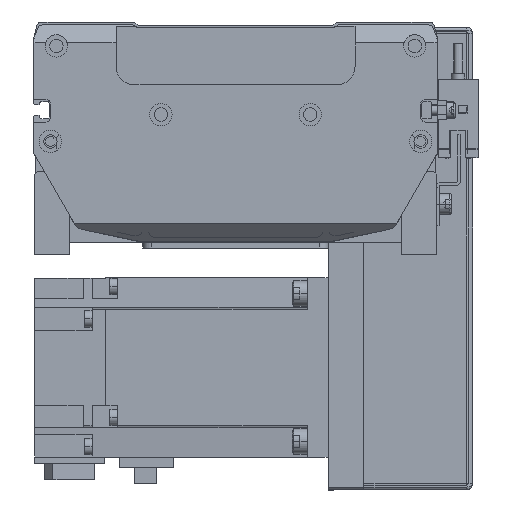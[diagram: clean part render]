
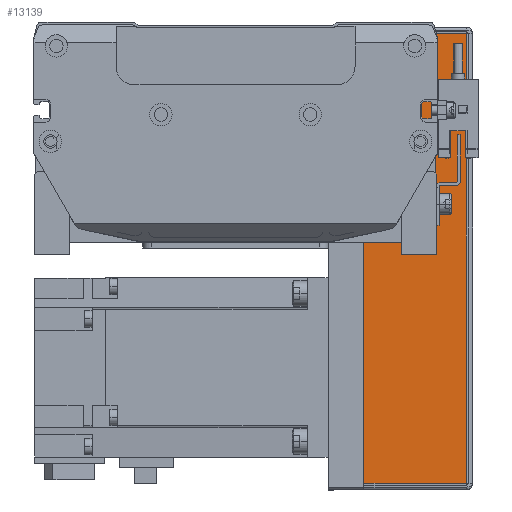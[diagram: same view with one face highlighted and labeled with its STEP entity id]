
A CAD part, front view. The second image highlights one B-rep face of the part: STEP entity #13139.
In plain terms, the highlighted planar face has unit normal (0, -1, 0).
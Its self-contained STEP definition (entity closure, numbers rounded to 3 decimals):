
#405 = LINE ( 'NONE', #37774, #8064 ) ;
#1668 = DIRECTION ( 'NONE',  ( 0., 0., -1. ) ) ;
#2088 = CARTESIAN_POINT ( 'NONE',  ( -34.793, -37., 36.5 ) ) ;
#5392 = EDGE_LOOP ( 'NONE', ( #39578, #12099, #31669, #41704 ) ) ;
#5598 = CARTESIAN_POINT ( 'NONE',  ( 115.793, -37., 34.263 ) ) ;
#8064 = VECTOR ( 'NONE', #31521, 1000. ) ;
#8483 = FACE_OUTER_BOUND ( 'NONE', #5392, .T. ) ;
#10827 = VECTOR ( 'NONE', #1668, 1000. ) ;
#11394 = DIRECTION ( 'NONE',  ( 0., 1., 0. ) ) ;
#12099 = ORIENTED_EDGE ( 'NONE', *, *, #25369, .F. ) ;
#12611 = VERTEX_POINT ( 'NONE', #40969 ) ;
#13139 = ADVANCED_FACE ( 'NONE', ( #8483 ), #18077, .F. ) ;
#14663 = DIRECTION ( 'NONE',  ( 0., 0., 1. ) ) ;
#15148 = VECTOR ( 'NONE', #28244, 1000. ) ;
#15313 = LINE ( 'NONE', #18813, #27467 ) ;
#16635 = EDGE_CURVE ( 'NONE', #12611, #22265, #405, .T. ) ;
#17323 = VERTEX_POINT ( 'NONE', #5598 ) ;
#18077 = PLANE ( 'NONE',  #29078 ) ;
#18674 = DIRECTION ( 'NONE',  ( 1., 0., 0. ) ) ;
#18711 = LINE ( 'NONE', #2088, #15148 ) ;
#18813 = CARTESIAN_POINT ( 'NONE',  ( 118., -37., 34.263 ) ) ;
#20772 = CARTESIAN_POINT ( 'NONE',  ( 115.793, -37., 35. ) ) ;
#22265 = VERTEX_POINT ( 'NONE', #38584 ) ;
#25369 = EDGE_CURVE ( 'NONE', #34225, #17323, #15313, .T. ) ;
#27467 = VECTOR ( 'NONE', #18674, 1000. ) ;
#28244 = DIRECTION ( 'NONE',  ( 0., 0., -1. ) ) ;
#28949 = CARTESIAN_POINT ( 'NONE',  ( -34.793, -37., 34.263 ) ) ;
#29078 = AXIS2_PLACEMENT_3D ( 'NONE', #37665, #11394, #14663 ) ;
#31521 = DIRECTION ( 'NONE',  ( 1., 0., 0. ) ) ;
#31669 = ORIENTED_EDGE ( 'NONE', *, *, #34133, .T. ) ;
#34133 = EDGE_CURVE ( 'NONE', #34225, #12611, #18711, .T. ) ;
#34225 = VERTEX_POINT ( 'NONE', #28949 ) ;
#35176 = LINE ( 'NONE', #20772, #10827 ) ;
#37665 = CARTESIAN_POINT ( 'NONE',  ( -162.166, -37., 36.5 ) ) ;
#37774 = CARTESIAN_POINT ( 'NONE',  ( -162.166, -37., 0. ) ) ;
#38226 = EDGE_CURVE ( 'NONE', #17323, #22265, #35176, .T. ) ;
#38584 = CARTESIAN_POINT ( 'NONE',  ( 115.793, -37., 0. ) ) ;
#39578 = ORIENTED_EDGE ( 'NONE', *, *, #38226, .F. ) ;
#40969 = CARTESIAN_POINT ( 'NONE',  ( -34.793, -37., 0. ) ) ;
#41704 = ORIENTED_EDGE ( 'NONE', *, *, #16635, .T. ) ;
